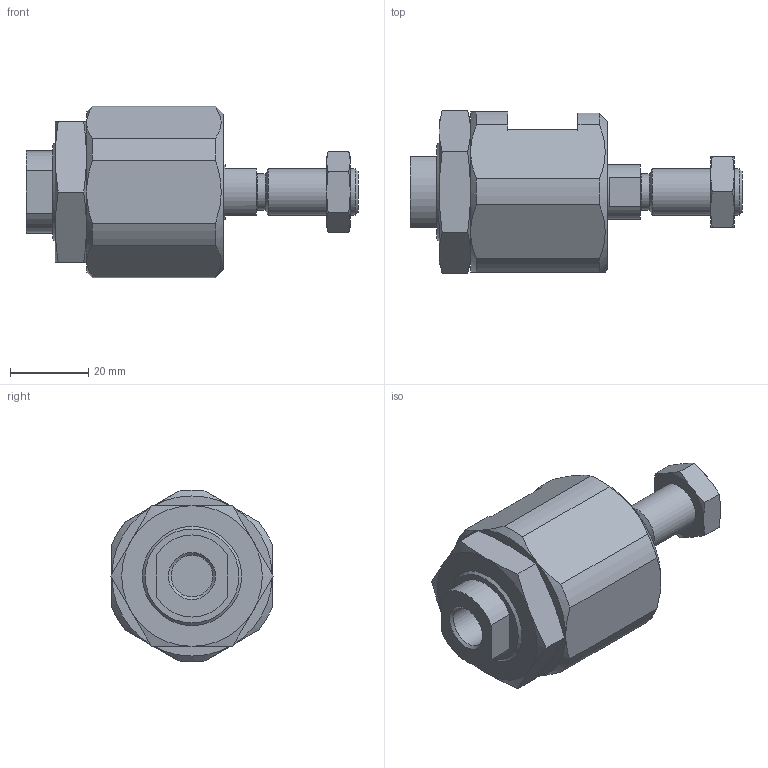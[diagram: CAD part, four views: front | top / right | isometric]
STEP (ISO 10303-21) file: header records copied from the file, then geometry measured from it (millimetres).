
FILE_DESCRIPTION( ( 'STEP AP203' ), '1' );
FILE_NAME( 'C:/Temp/Ganter_Step_05_03_2020/data/3_6/gn240_2/Rapid plug-in coupling GN 240.2-M12x1,25 (0).stp', '2020-03-12T14:08:24', ( 'License CC BY-ND 4.0' ), ( 'CADENAS' ), ' ', 'PARTsolutions', ' ' );
FILE_SCHEMA( ( 'CONFIG_CONTROL_DESIGN' ) );
Length unit declared in the file: millimetre
Products named in the file (4): Rapid plug-in coupling GN 240.2-M12x1,25 (0); _Rapid plug-in coupling GN 240.2-M12x1,25 (0)-1; _Rapid plug-in coupling GN 240.2-M12x1,25 (0)-5; _Rapid plug-in coupling GN 240.2-M12x1,25 (0)-4
Assembly tree (3 placements, depth 2):
  Rapid plug-in coupling GN 240.2-M12x1,25 (0)
    _Rapid plug-in coupling GN 240.2-M12x1,25 (0)-1
    _Rapid plug-in coupling GN 240.2-M12x1,25 (0)-5
    _Rapid plug-in coupling GN 240.2-M12x1,25 (0)-4
Bounding box: 85 x 41.57 x 43.94 mm (x, y, z)
Volume: 53985.6 mm3; surface area: 17366 mm2
Topology: 3 solids, 3 shells, 105 faces, 236 edges, 145 vertices
Faces by surface type: plane 44, cone 39, cylinder 19, torus 2, sphere 1
Full cylindrical faces by diameter (mm): 9.4 x1, 10.647 x2, 12 x1, 14 x1, 26.6 x2
Entity records: 3156 total; most frequent: CARTESIAN_POINT 829, DIRECTION 451, ORIENTED_EDGE 430, EDGE_CURVE 215, AXIS2_PLACEMENT_3D 194, VERTEX_POINT 142, EDGE_LOOP 135, FACE_OUTER_BOUND 115
